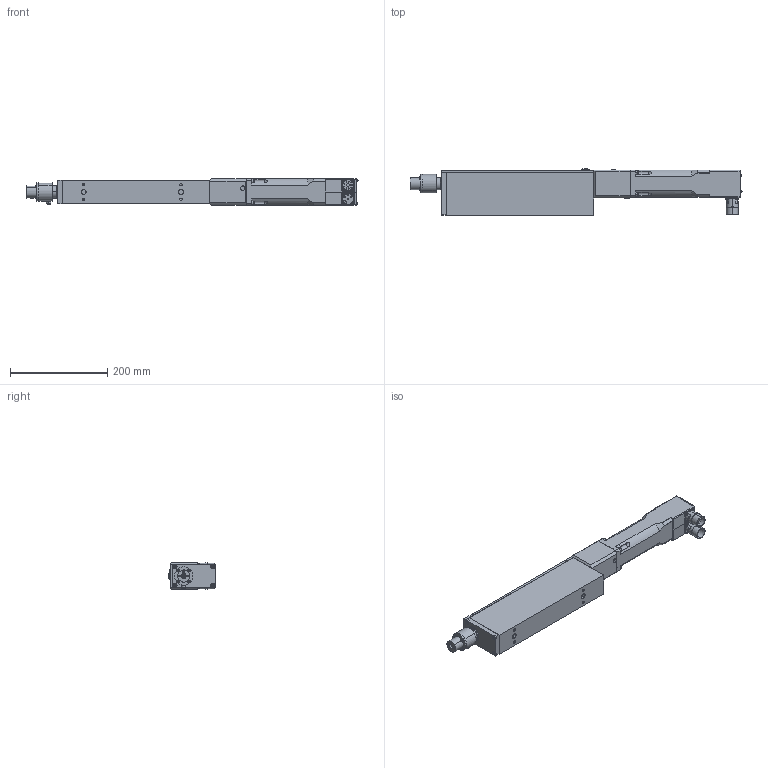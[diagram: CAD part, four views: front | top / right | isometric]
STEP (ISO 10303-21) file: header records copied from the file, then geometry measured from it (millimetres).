
FILE_DESCRIPTION (( 'STEP AP203' ), '1' );
FILE_NAME ('KM MPR5ID015-020-030H.STEP', '2021-03-03T15:33:22', ( '' ), ( '' ), 'SwSTEP 2.0', 'SolidWorks 2016', '' );
FILE_SCHEMA (( 'CONFIG_CONTROL_DESIGN' ));
Length unit declared in the file: millimetre
Products named in the file (2): KM MPR5ID015-020-030H
Bounding box: 682.09 x 95.58 x 55 mm (x, y, z)
Volume: 1927022.9 mm3; surface area: 347207.5 mm2
Topology: 38 solids, 50 shells, 2341 faces, 5432 edges, 3209 vertices
Faces by surface type: plane 1103, cylinder 626, cone 454, bspline 87, torus 58, sphere 13
Entity records: 68832 total; most frequent: CARTESIAN_POINT 16587, DIRECTION 11110, ORIENTED_EDGE 10484, EDGE_CURVE 5242, AXIS2_PLACEMENT_3D 4260, VERTEX_POINT 3196, EDGE_LOOP 2664, VECTOR 2590
